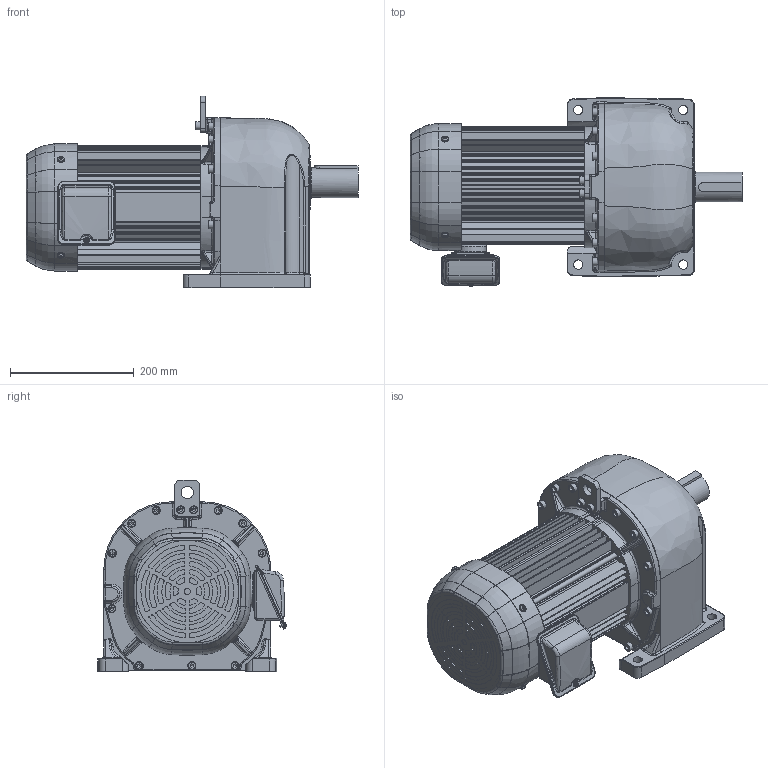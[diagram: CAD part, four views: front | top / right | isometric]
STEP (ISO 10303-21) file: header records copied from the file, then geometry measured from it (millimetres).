
FILE_DESCRIPTION( ( 'Unknown' ), '1' );
FILE_NAME( 'X:/gear/gm/3D-WEB/IE3/DP/ﾊﾟｰﾂ/完成品/dp_22_40-50.stp', 'Unknown', ( 'Unknown' ), ( 'Unknown' ), 'PSStep 14.0', 'Unknown', ' ' );
FILE_SCHEMA( ( 'AUTOMOTIVE_DESIGN { 1 0 10303 214 1 1 1 1 }' ) );
Length unit declared in the file: millimetre
Products named in the file (7): P164381_ｷﾞﾔｹｰｽ(L48)
Bounding box: 537 x 305.35 x 310 mm (x, y, z)
Volume: 11804109.6 mm3; surface area: 1314387 mm2
Topology: 29 solids, 40 shells, 1897 faces, 4685 edges, 2954 vertices
Faces by surface type: cylinder 815, plane 724, torus 133, bspline 121, cone 92, sphere 12
Full cylindrical faces by diameter (mm): 3.8 x2, 4.2 x8, 4.8 x1, 5 x4, 5.5 x4, 5.6 x1, 5.8 x4, 6 x8, 6.647 x9, 6.8 x9, 7 x1, 8 x17, 8.2 x1, 9 x15, 9.5 x4, 10 x15, 12 x6, 13 x15, 13.5 x2, 20 x1, 23 x1, 25 x3, 28.6 x1, 48 x3, 50 x2, 50.1 x1, 51.2 x1, 55 x1, 65 x1, 68 x2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
Entity records: 86154 total; most frequent: CARTESIAN_POINT 26818, DIRECTION 9788, ORIENTED_EDGE 8582, EDGE_CURVE 4291, AXIS2_PLACEMENT_3D 3890, VERTEX_POINT 2839, EDGE_LOOP 2300, FACE_OUTER_BOUND 2074
